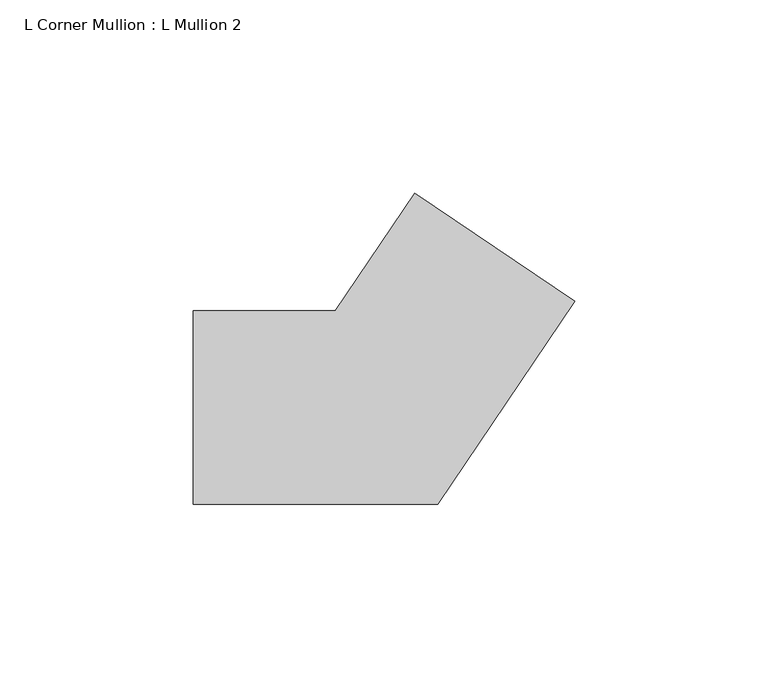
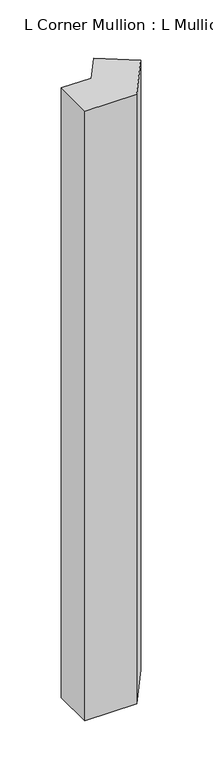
"""IFC4 building model written with IfcOpenShell, lengths in millimetres: member geometry, L Corner Mullion : L Mullion 2."""

from ifc_helpers import new_model, si_unit, frame, origin, place, context, project, spatial, polyline, outline, extrude, source, transform, mapped, element, save


def l_corner_mullion_l_mullion_2_c81d206f(model_context):
    return source(origin(), model_context, "Body", "SweptSolid", [
        extrude(outline(polyline([(48.6855845, 27.472056), (13.2927358, -25.0), (-50.0, -25.0), (-50.0, 25.0), (-13.2927358, 25.0), (7.2337059, 55.4317012), (48.6855845, 27.472056)])), frame((0.0, 0.0, -790.0), z_axis=(0.0, 0.0, 1.0), x_axis=(1.0, 0.0, 0.0)), (0.0, 0.0, 1.0), 790.0),
    ])


if __name__ == "__main__":
    model = new_model("IFC4")
    model_context = context("Model", 3, world=origin())
    ifc_project = project(units=[si_unit("LENGTHUNIT", "METRE", prefix="MILLI")], contexts=[model_context])
    site = spatial("IfcSite", under=ifc_project)
    building = spatial("IfcBuilding", under=site)
    placement = place(None, origin())
    l_corner_mullion_l_mullion_2_shape = l_corner_mullion_l_mullion_2_c81d206f(model_context)
    element("IfcMember", 1, ObjectType="L Corner Mullion : L Mullion 2", at=placement, inside=building, context=model_context, shape_type="MappedRepresentation", body=[
        mapped(l_corner_mullion_l_mullion_2_shape, transform((0.0, 0.0, 0.0), x_axis=(1.0, 0.0, 0.0), y_axis=(0.0, 1.0, 0.0), z_axis=(0.0, 0.0, 1.0))),
    ])
    save(model, "model.ifc")
